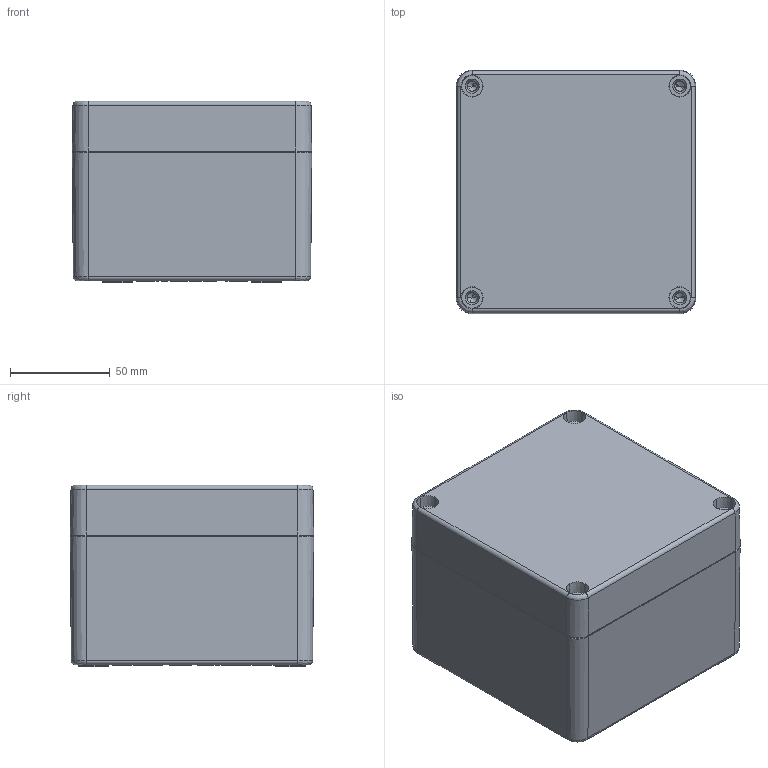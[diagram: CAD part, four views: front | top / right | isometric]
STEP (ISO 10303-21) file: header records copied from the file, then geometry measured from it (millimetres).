
FILE_DESCRIPTION (( 'STEP AP203' ), '1' );
FILE_NAME ('GRP ASSY 12212090.STEP', '2024-08-26T10:35:15', ( '' ), ( '' ), 'SwSTEP 2.0', 'SolidWorks 2018', '' );
FILE_SCHEMA (( 'CONFIG_CONTROL_DESIGN' ));
Length unit declared in the file: millimetre
Products named in the file (5): GRP BASE 12212090; M6 SS TOP INSERT; GRP ASSY 12212090; M6 BOTTOM INSERT; GRP LID 12212090
Assembly tree (12 placements, depth 2):
  GRP ASSY 12212090
    GRP BASE 12212090
    GRP LID 12212090
    M6 BOTTOM INSERT  x6
    M6 SS TOP INSERT  x4
Bounding box: 120 x 122 x 91 mm (x, y, z)
Volume: 392107.4 mm3; surface area: 154430.6 mm2
Topology: 12 solids, 12 shells, 1375 faces, 3447 edges, 2152 vertices
Faces by surface type: plane 416, bspline 363, cylinder 304, cone 252, torus 40
Entity records: 41317 total; most frequent: CARTESIAN_POINT 17592, ORIENTED_EDGE 5262, DIRECTION 3925, EDGE_CURVE 2631, VERTEX_POINT 1672, AXIS2_PLACEMENT_3D 1360, VECTOR 1205, LINE 1205
